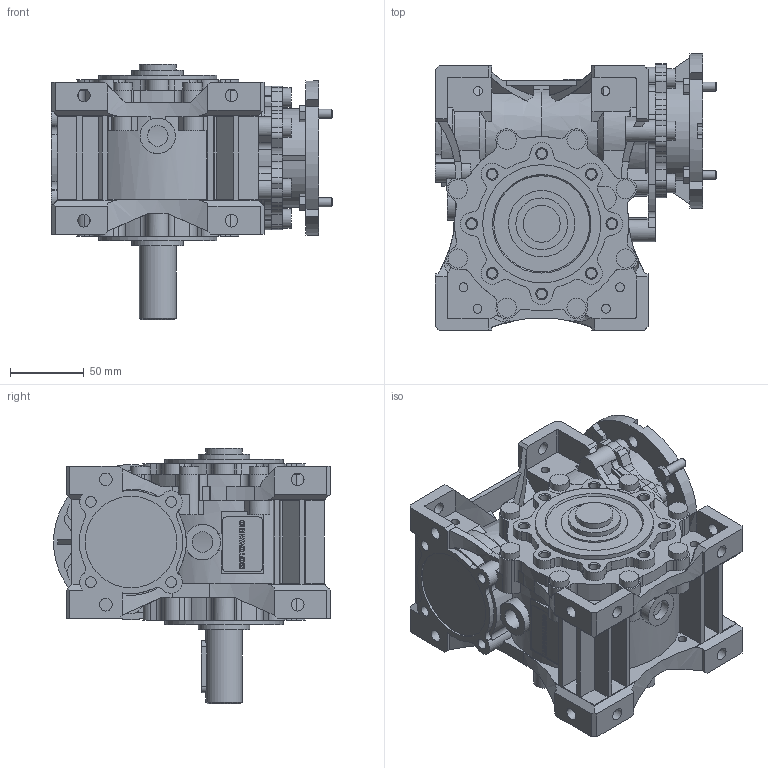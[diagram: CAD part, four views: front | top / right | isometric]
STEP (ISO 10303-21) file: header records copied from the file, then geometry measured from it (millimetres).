
FILE_DESCRIPTION(/* description */ ('STEP AP203'),/* implementation_level */ '2;1');
FILE_NAME(/* name */ 'NMRVP_063_105x14_25_NO_NO_-_-_S25_S_-_-_NO_NO_-_---_---------------',/* time_stamp */ '2025-12-03T08:35:30+01:00',/* author */ ('License CC BY-ND 4.0'),/* organization */ ('CADENAS'),/* preprocessor_version */ 'ST-DEVELOPER v20',/* originating_system */ 'PARTsolutions',/* authorisation */ ' ');
FILE_SCHEMA (('CONFIG_CONTROL_DESIGN'));
Length unit declared in the file: millimetre
Products named in the file (7): NMRVP 063 105x14 25 NO NO - - S25 S - - NO NO - ---(---------------); W.063.01.M; 063-25 (112); AL 063-25(1-2)-p; W.063.14.14.M-p; 6371 B14; 63-45
Assembly tree (6 placements, depth 2):
  NMRVP 063 105x14 25 NO NO - - S25 S - - NO NO - ---(---------------)
    W.063.01.M
    063-25 (112)
    AL 063-25(1-2)-p
    W.063.14.14.M-p
    6371 B14
    63-45
Bounding box: 190.44 x 187.33 x 173 mm (x, y, z)
Volume: 1938512.2 mm3; surface area: 326359.1 mm2
Topology: 6 solids, 10 shells, 1624 faces, 4410 edges, 2917 vertices
Faces by surface type: plane 903, cylinder 657, cone 62, torus 2
Full cylindrical faces by diameter (mm): 6 x16, 6.647 x16, 7.26 x12, 7.8 x1, 8.376 x1, 8.5 x20, 10.5 x1, 13 x14, 14 x3, 24 x1, 25 x3, 27 x1, 35 x3, 37 x1, 44 x1, 45 x3, 62 x3, 68 x2, 70 x1, 80 x2
Entity records: 51180 total; most frequent: CARTESIAN_POINT 9554, DIRECTION 8800, ORIENTED_EDGE 8488, EDGE_CURVE 4244, AXIS2_PLACEMENT_3D 3138, VERTEX_POINT 2887, LINE 2524, VECTOR 2524
